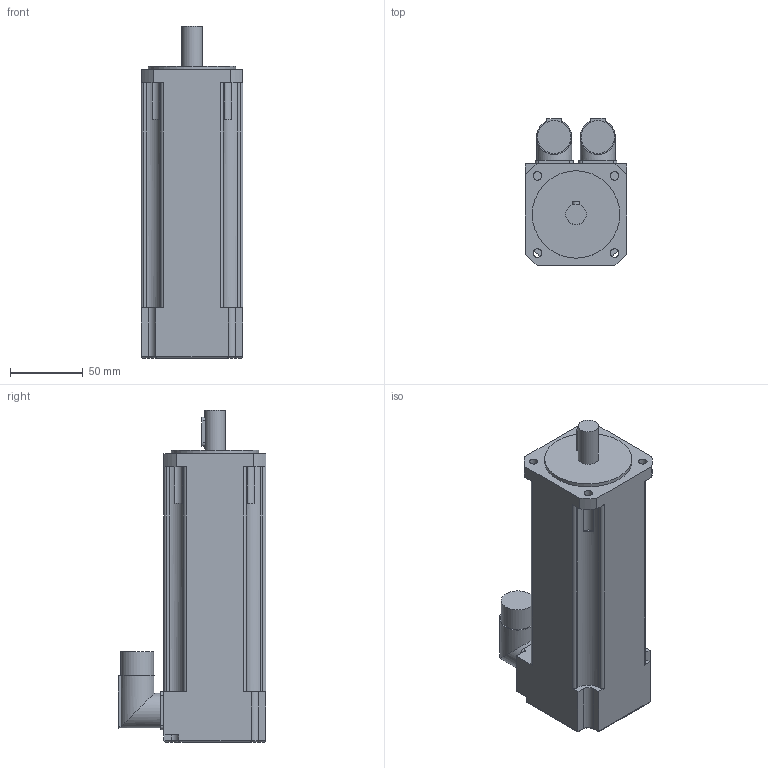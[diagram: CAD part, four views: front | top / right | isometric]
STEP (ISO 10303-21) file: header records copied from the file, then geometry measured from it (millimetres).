
FILE_DESCRIPTION(/* description */ (''),/* implementation_level */ '2;1');
FILE_NAME(/* name */ '\\Lafnas01\disegni\Archivi Lafert\3D\CAD 3D\MODELLI\Assiemi clienti\Serad\Modelli 3D Serad\B36Q\Resolver\Res With Brake\B36F4Qxx6B052033.ipt.stp',/* time_stamp */ '2015-09-07T10:49:31+02:00',/* author */ ('Pastrello Ylenia'),/* organization */ (''),/* preprocessor_version */ 'ST-DEVELOPER v15.6',/* originating_system */ 'Autodesk Inventor 2015',/* authorisation */ '');
FILE_SCHEMA (('AUTOMOTIVE_DESIGN { 1 0 10303 214 3 1 1 }'));
Length unit declared in the file: millimetre
Products named in the file (1): B36F4Qxx6B052033
Bounding box: 70 x 101.5 x 228 mm (x, y, z)
Volume: 924667.5 mm3; surface area: 73302.8 mm2
Topology: 1 solids, 1 shells, 121 faces, 322 edges, 210 vertices
Faces by surface type: plane 59, cylinder 58, torus 4
Full cylindrical faces by diameter (mm): 5.8 x4, 14 x1, 22.7 x2, 24 x2, 60 x1
Entity records: 3806 total; most frequent: CARTESIAN_POINT 678, DIRECTION 676, ORIENTED_EDGE 624, EDGE_CURVE 312, AXIS2_PLACEMENT_3D 244, VERTEX_POINT 210, LINE 188, VECTOR 188
